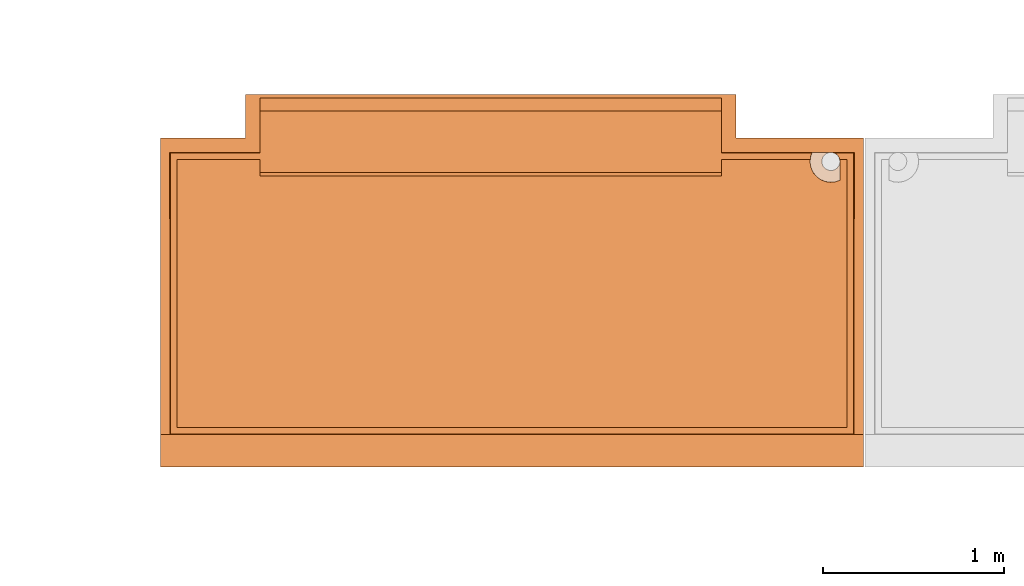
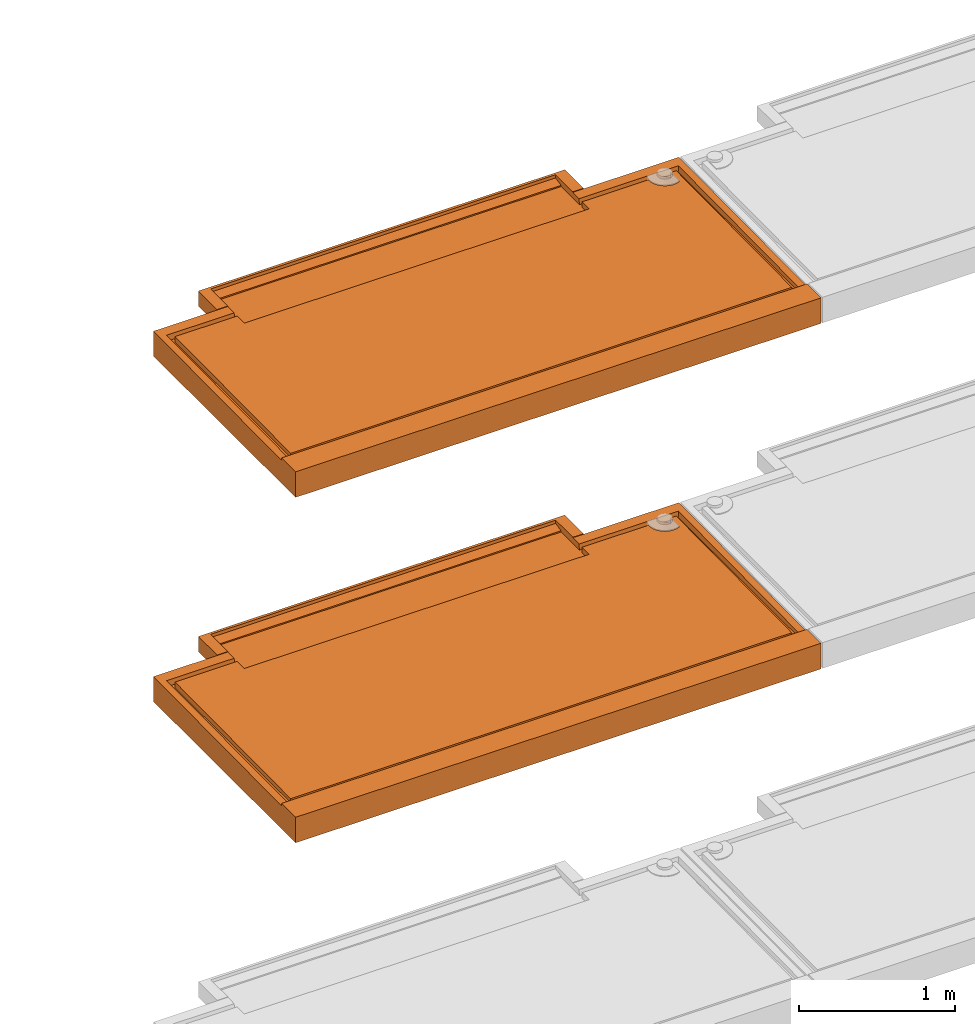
# One storey, part 10 of 31: 2 proxies, 2 elements without a shape of their own.
"""IFC2X3 building model written with IfcOpenShell, lengths in centimetres."""

from ifc_helpers import new_model, entity, si_unit, converted_unit, derived_unit, direction, frame, origin, place, context, subcontext, project, spatial, faceted_brep, source, transform, mapped, material, type_object, type_shapes, element, aggregate, save


model = new_model("IFC2X3")

# Units and contexts
model_context = context("Model", 3, precision=0.001, world=origin(), true_north=direction((6.12303176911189e-17, 1.0)))
body_context = subcontext(model_context, "Body", "Model", "MODEL_VIEW")
ifc_project = project(units=[si_unit("LENGTHUNIT", "METRE", prefix="CENTI"), si_unit("AREAUNIT", "SQUARE_METRE"), si_unit("VOLUMEUNIT", "CUBIC_METRE"), converted_unit("PLANEANGLEUNIT", "DEGREE", entity("IfcRatioMeasure", 0.0174532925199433), si_unit("PLANEANGLEUNIT", "RADIAN"), dimensions=[0, 0, 0, 0, 0, 0, 0]), si_unit("MASSUNIT", "GRAM", prefix="KILO"), derived_unit("MASSDENSITYUNIT", [(si_unit("MASSUNIT", "GRAM", prefix="KILO"), 1), (si_unit("LENGTHUNIT", "METRE"), -3)]), si_unit("TIMEUNIT", "SECOND"), si_unit("FREQUENCYUNIT", "HERTZ"), si_unit("THERMODYNAMICTEMPERATUREUNIT", "DEGREE_CELSIUS"), derived_unit("THERMALTRANSMITTANCEUNIT", [(si_unit("MASSUNIT", "GRAM", prefix="KILO"), 1), (si_unit("THERMODYNAMICTEMPERATUREUNIT", "KELVIN"), -1), (si_unit("TIMEUNIT", "SECOND"), -3)]), derived_unit("VOLUMETRICFLOWRATEUNIT", [(si_unit("LENGTHUNIT", "METRE"), 3), (si_unit("TIMEUNIT", "SECOND"), -1)]), si_unit("ELECTRICCURRENTUNIT", "AMPERE"), si_unit("ELECTRICVOLTAGEUNIT", "VOLT"), si_unit("POWERUNIT", "WATT"), si_unit("FORCEUNIT", "NEWTON"), si_unit("ILLUMINANCEUNIT", "LUX"), si_unit("LUMINOUSFLUXUNIT", "LUMEN"), si_unit("LUMINOUSINTENSITYUNIT", "CANDELA"), derived_unit("USERDEFINED", [(si_unit("MASSUNIT", "GRAM", prefix="KILO"), -1), (si_unit("LENGTHUNIT", "METRE"), -2), (si_unit("TIMEUNIT", "SECOND"), 3), (si_unit("LUMINOUSFLUXUNIT", "LUMEN"), 1)]), derived_unit("LINEARVELOCITYUNIT", [(si_unit("LENGTHUNIT", "METRE"), 1), (si_unit("TIMEUNIT", "SECOND"), -1)]), si_unit("PRESSUREUNIT", "PASCAL"), derived_unit("USERDEFINED", [(si_unit("LENGTHUNIT", "METRE"), -2), (si_unit("MASSUNIT", "GRAM", prefix="KILO"), 1), (si_unit("TIMEUNIT", "SECOND"), -2)])], contexts=[model_context])

# Site, building, storey
site_placement = place(None, origin())
site = spatial("IfcSite", under=ifc_project, at=site_placement, Name="Default", CompositionType="ELEMENT")
building_placement = place(site_placement, origin())
building = spatial("IfcBuilding", under=site, at=building_placement, Name="CAGE 03", CompositionType="ELEMENT")
storey_placement = place(building_placement, frame((0.0, 0.0, -400.0)))
storey = spatial("IfcBuildingStorey", under=building, at=storey_placement, Name="±0.00", CompositionType="ELEMENT", Elevation=-400.0)

# Assembly, proxy
assembly_1_placement = place(storey_placement, origin())
assembly_1 = element("IfcElementAssembly", 1, at=assembly_1_placement, inside=storey, Name="Assemblage Modèles génériques:BALCON TYPE 03", ObjectType="Assemblage Modèles génériques:BALCON TYPE 03", AssemblyPlace="NOTDEFINED", PredefinedType="USERDEFINED")
ifc_material = material(Name="Béton, panneaux préfa 30/37")
building_element_proxy_type_1 = type_object("IfcBuildingElementProxyType", Name="balcon préfa type 03", PredefinedType="NOTDEFINED", material=ifc_material)
shared_shape_1 = source(origin(), body_context, "Body", "Brep", [
    faceted_brep([(9.0, 22.0, 15.0), (9.0, 170.0, 15.0), (55.0, 170.0, 15.0), (55.0, 163.0, 15.0), (310.0, 163.0, 15.0), (310.0, 170.0, 15.0), (359.043560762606, 170.0, 15.0), (359.350476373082, 171.817467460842, 15.0), (359.943813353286, 173.56255668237, 15.0), (310.0, 173.562556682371, 15.0), (310.0, 197.0, 15.0), (55.0, 197.0, 15.0), (55.0, 173.562556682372, 15.0), (5.43744331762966, 173.562556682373, 15.0), (5.4374433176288, 18.4374433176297, 15.0), (383.06255668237, 18.4374433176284, 15.0), (383.06255668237, 173.56255668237, 15.0), (372.545257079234, 173.56255668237, 15.0), (373.559340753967, 172.954798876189, 15.0), (374.402378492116, 172.125930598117, 15.0), (375.027236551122, 171.122293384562, 15.0), (375.398979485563, 170.0, 15.0), (379.5, 170.0, 15.0), (379.499999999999, 22.0, 15.0), (47.0, 182.0, 20.0), (55.0, 182.0, 20.0), (55.0, 204.0, 20.0), (310.0, 204.0, 20.0), (310.0, 182.0, 20.0), (318.0, 182.0, 20.0), (318.0, 198.0, 20.0), (318.0, 206.0, 20.0), (47.0, 206.0, 20.0), (47.0, 198.0, 20.0), (388.499999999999, 0.0, 20.0), (388.499999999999, 18.0, 20.0), (0.0, 18.0, 20.0), (0.0, 0.0, 20.0), (47.0, 206.0, 8.0), (318.0, 206.0, 8.0), (4.0, 180.0, 0.0), (4.0, 182.0, 0.0), (365.499999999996, 169.0, 0.0), (365.67037086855, 167.705904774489, 0.0), (4.0, 4.0, 0.0), (365.67037086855, 170.294095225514, 0.0), (366.169872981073, 171.500000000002, 0.0), (366.964466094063, 172.535533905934, 0.0), (368.0, 173.330127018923, 0.0), (384.5, 182.0, 0.0), (369.205904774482, 173.829629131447, 0.0), (370.499999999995, 174.0, 0.0), (371.794095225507, 173.829629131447, 0.0), (373.0, 173.330127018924, 0.0), (384.5, 180.0, 0.0), (374.035533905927, 172.535533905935, 0.0), (374.830127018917, 171.500000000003, 0.0), (375.329629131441, 170.294095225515, 0.0), (375.499999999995, 169.0, 0.0), (375.329629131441, 167.705904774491, 0.0), (374.830127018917, 166.500000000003, 0.0), (384.499999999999, 4.0, 0.0), (366.169872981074, 166.500000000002, 0.0), (366.964466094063, 165.464466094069, 0.0), (368.0, 164.66987298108, 0.0), (369.205904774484, 164.170370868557, 0.0), (370.499999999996, 164.0, 0.0), (374.035533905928, 165.46446609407, 0.0), (373.0, 164.669872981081, 0.0), (371.794095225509, 164.170370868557, 0.0), (0.0, 182.0, 0.0), (3.0, 182.0, 0.0), (3.0, 180.0, 0.0), (3.0, 3.0, 0.0), (385.499999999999, 3.0, 0.0), (385.5, 180.0, 0.0), (385.5, 182.0, 0.0), (388.5, 182.0, 0.0), (388.5, 180.0, 0.0), (388.499999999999, 0.0, 0.0), (0.0, 0.0, 0.0), (0.0, 180.0, 0.0), (0.0, 18.177465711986, 17.9715576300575), (5.17746571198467, 18.177465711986, 17.9715576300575), (5.04116008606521, 173.958839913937, 19.5295380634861), (55.0, 173.958839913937, 19.5295380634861), (55.0, 180.0, 19.589956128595), (55.0, 182.0, 19.6099582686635), (47.0, 182.0, 19.6099582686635), (0.0, 182.0, 19.6099582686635), (0.0, 180.0, 19.589956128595), (9.0, 22.0, 18.0097870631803), (379.499999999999, 22.0, 18.0097870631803), (379.499999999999, 170.0, 19.4899454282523), (375.398979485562, 170.0, 19.4899454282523), (375.474680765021, 169.502544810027, 19.4849703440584), (375.499999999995, 169.0, 19.479944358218), (375.499999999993, 158.643842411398, 19.3763717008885), (372.960376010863, 157.766276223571, 19.3675950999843), (370.286434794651, 157.501983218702, 19.3649518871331), (367.624152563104, 157.865391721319, 19.3685863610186), (365.11886903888, 158.836662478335, 19.3783001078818), (362.907353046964, 160.362771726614, 19.3935628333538), (361.110336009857, 162.360405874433, 19.4135413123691), (359.82592095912, 164.720509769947, 19.4371448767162), (359.124226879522, 167.31424025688, 19.4630849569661), (359.043560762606, 170.0, 19.4899454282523), (310.0, 170.0, 19.4899454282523), (310.0, 161.001802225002, 19.3999538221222), (55.0, 161.001802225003, 19.3999538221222), (55.0, 170.0, 19.4899454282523), (9.0, 170.0, 19.4899454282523), (318.0, 182.0, 19.6099582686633), (310.0, 182.0, 19.6099582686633), (310.0, 180.0, 19.589956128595), (310.0, 173.958839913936, 19.5295380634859), (360.124070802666, 173.958839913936, 19.5295380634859), (360.133936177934, 173.979429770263, 19.5297439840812), (360.143842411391, 174.0, 19.5299497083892), (370.499999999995, 174.0, 19.5299497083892), (370.820780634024, 173.989699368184, 19.5298466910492), (371.140239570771, 173.958839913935, 19.5295380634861), (383.458839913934, 173.958839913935, 19.5295380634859), (383.322534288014, 18.1774657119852, 17.9715576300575), (388.499999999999, 18.1774657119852, 17.9715576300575), (388.5, 180.0, 19.589956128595), (388.5, 182.0, 19.6099582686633), (55.0, 161.026803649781, 16.9000788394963), (310.0, 161.02680364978, 16.9000788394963), (310.0, 197.0, 15.9713250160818), (310.0, 204.0, 17.4999999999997), (310.0, 163.0, 16.9198129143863), (55.0, 163.0, 16.9198129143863), (3.0, 3.0, 1.0), (385.499999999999, 3.0, 1.0), (55.0, 204.0, 17.4999999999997), (47.0, 198.0, 8.0), (318.0, 198.0, 8.0), (318.0, 182.0, 8.0), (47.0, 182.0, 8.0), (385.5, 182.0, 1.0), (384.5, 182.0, 1.46630765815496), (4.0, 182.0, 1.46630765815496), (3.0, 182.0, 1.0), (55.0, 197.0, 15.9713250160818), (4.0, 4.0, 1.46630765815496), (384.499999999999, 4.0, 1.46630765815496), (360.032066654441, 173.76155137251, 17.2745197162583), (360.078068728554, 173.860195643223, 18.4020288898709), (360.10106976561, 173.909517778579, 18.9657834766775), (360.112570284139, 173.934178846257, 19.2476607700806), (359.987940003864, 173.66205402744, 16.137259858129), (371.50144996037, 173.898683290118, 18.8419447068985), (371.857288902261, 173.812251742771, 17.8540276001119), (372.205847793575, 173.700008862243, 16.5710856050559), (385.5, 180.0, 1.0), (384.5, 180.0, 1.46630765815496), (3.0, 180.0, 1.0), (4.0, 180.0, 1.46630765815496), (359.235578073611, 171.315771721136, 7.69999999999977), (359.011272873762, 168.490933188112, 7.69999999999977), (359.484546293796, 165.697004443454, 7.69999999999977), (360.626661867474, 163.103628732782, 7.69999999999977), (362.36827201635, 160.868272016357, 7.69999999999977), (364.603628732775, 159.12666186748, 7.69999999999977), (367.197004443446, 157.984546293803, 7.69999999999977), (369.990933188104, 157.511272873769, 7.69999999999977), (372.81577172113, 157.735578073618, 7.69999999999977), (375.499999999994, 158.643842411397, 7.69999999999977), (375.499999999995, 169.0, 7.69999999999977), (375.32962913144, 167.705904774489, 7.69999999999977), (374.830127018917, 166.500000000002, 7.69999999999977), (374.035533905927, 165.464466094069, 7.69999999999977), (373.0, 164.66987298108, 7.69999999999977), (371.794095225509, 164.170370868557, 7.69999999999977), (370.499999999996, 164.0, 7.69999999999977), (369.205904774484, 164.170370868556, 7.69999999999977), (368.0, 164.669872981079, 7.69999999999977), (366.964466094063, 165.464466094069, 7.69999999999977), (366.169872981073, 166.500000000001, 7.69999999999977), (365.67037086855, 167.705904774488, 7.69999999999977), (365.499999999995, 169.0, 7.69999999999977), (365.67037086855, 170.294095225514, 7.69999999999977), (366.169872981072, 171.500000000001, 7.69999999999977), (366.964466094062, 172.535533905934, 7.69999999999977), (368.0, 173.330127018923, 7.69999999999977), (369.205904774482, 173.829629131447, 7.69999999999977), (370.49999999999, 174.0, 7.69999999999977), (360.14384241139, 174.0, 7.69999999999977), (360.143842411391, 174.0, 19.1602679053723), (360.143842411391, 174.0, 18.7905791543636), (360.143842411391, 174.0, 18.0512016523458), (360.143842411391, 174.0, 16.5724605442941), (360.143842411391, 174.0, 15.0937194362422), (360.143842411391, 174.0, 13.6149783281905)], [[[0, 1, 2, 3, 4, 5, 6, 7, 8, 9, 10, 11, 12, 13, 14, 15, 16, 17, 18, 19, 20, 21, 22, 23]], [[24, 25, 26, 27, 28, 29, 30, 31, 32, 33]], [[34, 35, 36, 37]], [[38, 32, 31, 39]], [[40, 41, 42]], [[43, 40, 42]], [[43, 44, 40]], [[42, 41, 45]], [[45, 41, 46]], [[47, 46, 41]], [[48, 47, 41]], [[48, 41, 49]], [[49, 50, 48]], [[51, 50, 49]], [[52, 51, 49]], [[53, 52, 49]], [[54, 53, 49]], [[54, 55, 53]], [[56, 55, 54]], [[54, 57, 56]], [[58, 57, 54]], [[59, 58, 54]], [[54, 60, 59]], [[61, 60, 54]], [[61, 44, 62]], [[61, 62, 63]], [[61, 63, 64]], [[61, 64, 65]], [[61, 65, 66]], [[67, 60, 61]], [[67, 61, 68]], [[69, 68, 61]], [[61, 66, 69]], [[62, 44, 43]], [[70, 71, 72, 73, 74, 75, 76, 77, 78, 79, 80, 81]], [[37, 80, 79, 34]], [[82, 83, 84, 85, 86, 87, 88, 89, 90]], [[91, 92, 93, 94, 95, 96, 97, 98, 99, 100, 101, 102, 103, 104, 105, 106, 107, 108, 109, 110, 111]], [[112, 113, 114, 115, 116, 117, 118, 119, 120, 121, 122, 123, 124, 125, 126]], [[127, 109, 108, 128]], [[78, 77, 126, 125, 124, 35, 34, 79]], [[80, 37, 36, 82, 90, 89, 70, 81]], [[129, 10, 9, 115, 114, 113, 28, 27, 130]], [[107, 5, 4, 131, 128, 108]], [[92, 23, 22, 93]], [[123, 122, 16, 15]], [[0, 23, 92, 91]], [[132, 127, 128, 131]], [[3, 132, 131, 4]], [[123, 15, 14, 83, 82, 36, 35, 124]], [[133, 134, 74, 73]], [[26, 135, 130, 27]], [[136, 38, 39, 137, 138, 139]], [[89, 88, 139, 138, 112, 126, 77, 76, 140, 141, 49, 41, 142, 143, 71, 70]], [[135, 26, 25, 87, 86, 85, 12, 11, 144]], [[110, 109, 127, 132, 3, 2]], [[106, 6, 5, 107]], [[110, 2, 1, 111]], [[22, 21, 94, 93]], [[145, 44, 61, 146]], [[144, 11, 10, 129]], [[147, 148, 149, 150, 116, 115, 9, 8, 151]], [[85, 84, 13, 12]], [[122, 121, 152, 153, 154, 17, 16]], [[133, 145, 146, 134]], [[135, 144, 129, 130]], [[29, 28, 113, 112]], [[25, 24, 88, 87]], [[76, 75, 74, 134, 155, 140]], [[156, 146, 61, 54, 49, 141]], [[155, 134, 146, 156, 141, 140]], [[73, 72, 71, 143, 157, 133]], [[158, 142, 41, 40, 44, 145]], [[145, 133, 157, 143, 142, 158]], [[1, 0, 91, 111]], [[13, 84, 83, 14]], [[30, 29, 112, 138, 137, 39, 31]], [[33, 32, 38, 136, 139, 88, 24]], [[159, 160, 161, 162, 163, 164, 165, 166, 167, 168, 169, 170, 171, 172, 173, 174, 175, 176, 177, 178, 179, 180, 181, 182, 183, 184, 185, 186, 187, 188]], [[119, 118, 189, 190, 191, 192, 193, 194, 188, 187]], [[194, 8, 7]], [[159, 188, 7]], [[150, 189, 117]], [[151, 192, 147]], [[105, 160, 6]], [[7, 6, 159]], [[160, 159, 6]], [[105, 161, 160]], [[117, 116, 150]], [[189, 149, 190]], [[148, 191, 190]], [[6, 106, 105]], [[104, 161, 105]], [[149, 148, 190]], [[150, 149, 189]], [[188, 194, 7]], [[104, 162, 161]], [[163, 162, 103]], [[163, 102, 164]], [[99, 167, 166]], [[166, 165, 100]], [[165, 164, 101]], [[168, 167, 98]], [[148, 147, 191]], [[163, 103, 102]], [[164, 102, 101]], [[8, 193, 151]], [[8, 194, 193]], [[167, 99, 98]], [[118, 117, 189]], [[192, 191, 147]], [[97, 168, 98]], [[166, 100, 99]], [[100, 165, 101]], [[192, 151, 193]], [[104, 103, 162]], [[169, 168, 97, 96]], [[48, 50, 186, 185]], [[48, 185, 184, 47]], [[45, 46, 183, 182]], [[184, 183, 46, 47]], [[42, 45, 182, 181]], [[51, 187, 186, 50]], [[62, 43, 180, 179]], [[62, 179, 178, 63]], [[65, 64, 177, 176]], [[178, 177, 64, 63]], [[66, 65, 176, 175]], [[181, 180, 43, 42]], [[69, 174, 173, 68]], [[66, 175, 174, 69]], [[171, 170, 59, 60]], [[60, 67, 172, 171]], [[67, 68, 173, 172]], [[58, 59, 170, 169]], [[96, 95, 169]], [[21, 169, 95]], [[94, 21, 95]], [[57, 169, 21]], [[57, 58, 169]], [[20, 56, 57]], [[56, 20, 19]], [[19, 55, 56]], [[187, 51, 52]], [[53, 55, 18]], [[53, 17, 52]], [[19, 18, 55]], [[52, 152, 187]], [[53, 18, 17]], [[17, 154, 52]], [[152, 52, 153]], [[152, 121, 187]], [[153, 52, 154]], [[121, 120, 187]], [[187, 120, 119]], [[57, 21, 20]]]),
])
type_shapes(building_element_proxy_type_1, [shared_shape_1])
proxy_1_placement = place(assembly_1_placement, frame((6692.36582014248, 3796.6606660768, 1530.0)))
proxy_1 = element("IfcBuildingElementProxy", 2, at=proxy_1_placement, type_object=building_element_proxy_type_1, material=ifc_material, Name="BY_STR_Balcon_préfa_03:balcon préfa type 03", ObjectType="balcon préfa type 03", context=body_context, shape_type="MappedRepresentation", body=[
    mapped(shared_shape_1, transform((0.0, 0.0, 0.0), scale=1.0)),
])
aggregate(assembly_1, [proxy_1])

assembly_2_placement = place(storey_placement, origin())
assembly_2 = element("IfcElementAssembly", 3, at=assembly_2_placement, inside=storey, Name="Assemblage Modèles génériques:BALCON TYPE 03", ObjectType="Assemblage Modèles génériques:BALCON TYPE 03", AssemblyPlace="NOTDEFINED", PredefinedType="USERDEFINED")
building_element_proxy_type_2 = type_object("IfcBuildingElementProxyType", Name="balcon préfa type 03", PredefinedType="NOTDEFINED", material=ifc_material)
shared_shape_2 = source(origin(), body_context, "Body", "Brep", [
    faceted_brep([(9.0, 22.0, 15.0), (9.0, 170.0, 15.0), (55.0, 170.0, 15.0), (55.0, 163.0, 15.0), (310.0, 163.0, 15.0), (310.0, 170.0, 15.0), (359.043560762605, 170.0, 15.0), (359.35047637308, 171.817467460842, 15.0), (359.943813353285, 173.56255668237, 15.0), (310.0, 173.562556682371, 15.0), (310.0, 197.0, 15.0), (55.0, 197.0, 15.0), (55.0, 173.562556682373, 15.0), (5.43744331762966, 173.562556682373, 15.0), (5.4374433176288, 18.4374433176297, 15.0), (383.06255668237, 18.4374433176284, 15.0), (383.06255668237, 173.56255668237, 15.0), (372.545257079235, 173.56255668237, 15.0), (373.559340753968, 172.954798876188, 15.0), (374.402378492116, 172.125930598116, 15.0), (375.027236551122, 171.122293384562, 15.0), (375.398979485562, 170.0, 15.0), (379.5, 170.0, 15.0), (379.499999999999, 22.0, 15.0), (47.0, 182.0, 20.0), (55.0, 182.0, 20.0), (55.0, 204.0, 20.0), (310.0, 204.0, 20.0), (310.0, 182.0, 20.0), (318.0, 182.0, 20.0), (318.0, 198.0, 20.0), (318.0, 206.0, 20.0), (47.0, 206.0, 20.0), (47.0, 198.0, 20.0), (388.499999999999, 0.0, 20.0), (388.499999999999, 18.0, 20.0), (0.0, 18.0, 20.0), (0.0, 0.0, 20.0), (47.0, 206.0, 8.0), (318.0, 206.0, 8.0), (4.0, 180.0, 0.0), (4.0, 182.0, 0.0), (365.499999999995, 169.0, 0.0), (365.67037086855, 167.70590477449, 0.0), (4.0, 4.0, 0.0), (365.67037086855, 170.294095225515, 0.0), (366.169872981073, 171.500000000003, 0.0), (366.964466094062, 172.535533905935, 0.0), (368.0, 173.330127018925, 0.0), (384.5, 182.0, 0.0), (369.205904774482, 173.829629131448, 0.0), (370.499999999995, 174.0, 0.0), (371.794095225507, 173.829629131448, 0.0), (373.0, 173.330127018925, 0.0), (384.5, 180.0, 0.0), (374.035533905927, 172.535533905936, 0.0), (374.830127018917, 171.500000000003, 0.0), (375.32962913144, 170.294095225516, 0.0), (375.499999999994, 169.0, 0.0), (375.32962913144, 167.705904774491, 0.0), (374.830127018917, 166.500000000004, 0.0), (384.499999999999, 4.0, 0.0), (366.169872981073, 166.500000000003, 0.0), (366.964466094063, 165.46446609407, 0.0), (368.0, 164.669872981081, 0.0), (369.205904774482, 164.170370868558, 0.0), (370.499999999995, 164.0, 0.0), (374.035533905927, 165.464466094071, 0.0), (373.0, 164.669872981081, 0.0), (371.794095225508, 164.170370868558, 0.0), (0.0, 182.0, 0.0), (3.0, 182.0, 0.0), (3.0, 180.0, 0.0), (3.0, 3.0, 0.0), (385.499999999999, 3.0, 0.0), (385.5, 180.0, 0.0), (385.5, 182.0, 0.0), (388.5, 182.0, 0.0), (388.5, 180.0, 0.0), (388.499999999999, 0.0, 0.0), (0.0, 0.0, 0.0), (0.0, 180.0, 0.0), (0.0, 18.177465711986, 17.9715576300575), (5.17746571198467, 18.177465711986, 17.9715576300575), (5.04116008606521, 173.958839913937, 19.5295380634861), (55.0, 173.958839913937, 19.5295380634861), (55.0, 180.0, 19.589956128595), (55.0, 182.0, 19.6099582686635), (47.0, 182.0, 19.6099582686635), (0.0, 182.0, 19.6099582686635), (0.0, 180.0, 19.589956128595), (9.0, 22.0, 18.0097870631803), (379.499999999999, 22.0, 18.0097870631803), (379.499999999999, 170.0, 19.4899454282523), (375.398979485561, 170.0, 19.4899454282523), (375.47468076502, 169.502544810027, 19.4849703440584), (375.499999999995, 169.0, 19.479944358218), (375.499999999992, 158.643842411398, 19.3763717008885), (372.960376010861, 157.766276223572, 19.3675950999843), (370.286434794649, 157.501983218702, 19.3649518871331), (367.624152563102, 157.86539172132, 19.3685863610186), (365.118869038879, 158.836662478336, 19.3783001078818), (362.907353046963, 160.362771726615, 19.3935628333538), (361.110336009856, 162.360405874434, 19.4135413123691), (359.825920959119, 164.720509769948, 19.4371448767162), (359.124226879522, 167.31424025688, 19.4630849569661), (359.043560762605, 170.0, 19.4899454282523), (310.0, 170.0, 19.4899454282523), (310.0, 161.001802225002, 19.3999538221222), (55.0, 161.001802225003, 19.3999538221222), (55.0, 170.0, 19.4899454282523), (9.0, 170.0, 19.4899454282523), (318.0, 182.0, 19.6099582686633), (310.0, 182.0, 19.6099582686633), (310.0, 180.0, 19.589956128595), (310.0, 173.958839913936, 19.5295380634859), (360.124070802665, 173.958839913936, 19.5295380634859), (360.133936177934, 173.979429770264, 19.5297439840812), (360.143842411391, 174.0, 19.5299497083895), (370.499999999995, 174.0, 19.5299497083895), (370.820780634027, 173.989699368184, 19.5298466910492), (371.140239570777, 173.958839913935, 19.5295380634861), (383.458839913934, 173.958839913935, 19.5295380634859), (383.322534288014, 18.1774657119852, 17.9715576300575), (388.499999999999, 18.1774657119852, 17.9715576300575), (388.5, 180.0, 19.589956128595), (388.5, 182.0, 19.6099582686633), (55.0, 161.026803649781, 16.9000788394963), (310.0, 161.02680364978, 16.9000788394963), (310.0, 197.0, 15.9713250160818), (310.0, 204.0, 17.4999999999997), (310.0, 163.0, 16.9198129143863), (55.0, 163.0, 16.9198129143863), (3.0, 3.0, 1.0), (385.499999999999, 3.0, 1.0), (55.0, 204.0, 17.4999999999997), (47.0, 198.0, 8.0), (318.0, 198.0, 8.0), (318.0, 182.0, 8.0), (47.0, 182.0, 8.0), (385.5, 182.0, 1.0), (384.5, 182.0, 1.46630765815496), (4.0, 182.0, 1.46630765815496), (3.0, 182.0, 1.0), (55.0, 197.0, 15.9713250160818), (4.0, 4.0, 1.46630765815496), (384.499999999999, 4.0, 1.46630765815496), (360.03206665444, 173.76155137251, 17.2745197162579), (360.078068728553, 173.860195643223, 18.4020288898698), (360.10106976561, 173.909517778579, 18.9657834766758), (360.112570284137, 173.934178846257, 19.2476607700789), (359.987940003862, 173.66205402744, 16.1372598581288), (371.501449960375, 173.898683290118, 18.8419447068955), (371.857288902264, 173.812251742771, 17.854027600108), (372.205847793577, 173.700008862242, 16.5710856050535), (385.5, 180.0, 1.0), (384.5, 180.0, 1.46630765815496), (3.0, 180.0, 1.0), (4.0, 180.0, 1.46630765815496), (359.23557807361, 171.315771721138, 7.69999999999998), (359.011272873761, 168.490933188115, 7.69999999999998), (359.484546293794, 165.697004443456, 7.69999999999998), (360.626661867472, 163.103628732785, 7.69999999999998), (362.368272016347, 160.868272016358, 7.69999999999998), (364.603628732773, 159.126661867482, 7.69999999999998), (367.197004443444, 157.984546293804, 7.69999999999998), (369.990933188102, 157.511272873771, 7.69999999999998), (372.815771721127, 157.735578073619, 7.69999999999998), (375.499999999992, 158.643842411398, 7.69999999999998), (375.499999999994, 169.0, 7.69999999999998), (375.329629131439, 167.70590477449, 7.69999999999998), (374.830127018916, 166.500000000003, 7.69999999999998), (374.035533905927, 165.46446609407, 7.69999999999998), (373.0, 164.669872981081, 7.69999999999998), (371.794095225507, 164.170370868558, 7.69999999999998), (370.499999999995, 164.0, 7.69999999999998), (369.205904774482, 164.170370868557, 7.69999999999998), (368.0, 164.66987298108, 7.69999999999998), (366.964466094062, 165.464466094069, 7.69999999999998), (366.169872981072, 166.500000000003, 7.69999999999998), (365.670370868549, 167.70590477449, 7.69999999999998), (365.499999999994, 169.0, 7.69999999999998), (365.670370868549, 170.294095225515, 7.69999999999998), (366.169872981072, 171.500000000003, 7.69999999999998), (366.964466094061, 172.535533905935, 7.69999999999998), (368.0, 173.330127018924, 7.69999999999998), (369.205904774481, 173.829629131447, 7.69999999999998), (370.49999999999, 174.0, 7.69999999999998), (360.14384241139, 174.0, 7.69999999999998), (360.143842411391, 174.0, 19.1602570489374), (360.143842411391, 174.0, 18.7905713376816), (360.143842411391, 174.0, 18.0511999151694), (360.143842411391, 174.0, 16.5724570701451), (360.14384241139, 174.0, 15.0937142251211), (360.14384241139, 174.0, 13.6149713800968)], [[[0, 1, 2, 3, 4, 5, 6, 7, 8, 9, 10, 11, 12, 13, 14, 15, 16, 17, 18, 19, 20, 21, 22, 23]], [[24, 25, 26, 27, 28, 29, 30, 31, 32, 33]], [[34, 35, 36, 37]], [[38, 32, 31, 39]], [[40, 41, 42]], [[43, 40, 42]], [[43, 44, 40]], [[42, 41, 45]], [[45, 41, 46]], [[47, 46, 41]], [[48, 47, 41]], [[48, 41, 49]], [[49, 50, 48]], [[51, 50, 49]], [[52, 51, 49]], [[53, 52, 49]], [[54, 53, 49]], [[54, 55, 53]], [[56, 55, 54]], [[54, 57, 56]], [[58, 57, 54]], [[59, 58, 54]], [[54, 60, 59]], [[61, 60, 54]], [[61, 44, 62]], [[61, 62, 63]], [[61, 63, 64]], [[61, 64, 65]], [[61, 65, 66]], [[67, 60, 61]], [[67, 61, 68]], [[69, 68, 61]], [[61, 66, 69]], [[62, 44, 43]], [[70, 71, 72, 73, 74, 75, 76, 77, 78, 79, 80, 81]], [[37, 80, 79, 34]], [[82, 83, 84, 85, 86, 87, 88, 89, 90]], [[91, 92, 93, 94, 95, 96, 97, 98, 99, 100, 101, 102, 103, 104, 105, 106, 107, 108, 109, 110, 111]], [[112, 113, 114, 115, 116, 117, 118, 119, 120, 121, 122, 123, 124, 125, 126]], [[127, 109, 108, 128]], [[78, 77, 126, 125, 124, 35, 34, 79]], [[80, 37, 36, 82, 90, 89, 70, 81]], [[129, 10, 9, 115, 114, 113, 28, 27, 130]], [[107, 5, 4, 131, 128, 108]], [[92, 23, 22, 93]], [[123, 122, 16, 15]], [[0, 23, 92, 91]], [[132, 127, 128, 131]], [[3, 132, 131, 4]], [[123, 15, 14, 83, 82, 36, 35, 124]], [[133, 134, 74, 73]], [[26, 135, 130, 27]], [[136, 38, 39, 137, 138, 139]], [[89, 88, 139, 138, 112, 126, 77, 76, 140, 141, 49, 41, 142, 143, 71, 70]], [[135, 26, 25, 87, 86, 85, 12, 11, 144]], [[110, 109, 127, 132, 3, 2]], [[106, 6, 5, 107]], [[110, 2, 1, 111]], [[22, 21, 94, 93]], [[145, 44, 61, 146]], [[144, 11, 10, 129]], [[147, 148, 149, 150, 116, 115, 9, 8, 151]], [[85, 84, 13, 12]], [[122, 121, 152, 153, 154, 17, 16]], [[133, 145, 146, 134]], [[135, 144, 129, 130]], [[29, 28, 113, 112]], [[25, 24, 88, 87]], [[76, 75, 74, 134, 155, 140]], [[156, 146, 61, 54, 49, 141]], [[155, 134, 146, 156, 141, 140]], [[73, 72, 71, 143, 157, 133]], [[158, 142, 41, 40, 44, 145]], [[145, 133, 157, 143, 142, 158]], [[1, 0, 91, 111]], [[13, 84, 83, 14]], [[30, 29, 112, 138, 137, 39, 31]], [[33, 32, 38, 136, 139, 88, 24]], [[159, 160, 161, 162, 163, 164, 165, 166, 167, 168, 169, 170, 171, 172, 173, 174, 175, 176, 177, 178, 179, 180, 181, 182, 183, 184, 185, 186, 187, 188]], [[119, 118, 189, 190, 191, 192, 193, 194, 188, 187]], [[194, 8, 7]], [[159, 188, 7]], [[150, 189, 117]], [[151, 192, 147]], [[105, 160, 6]], [[7, 6, 159]], [[160, 159, 6]], [[105, 161, 160]], [[117, 116, 150]], [[189, 149, 190]], [[148, 191, 190]], [[6, 106, 105]], [[104, 161, 105]], [[149, 148, 190]], [[150, 149, 189]], [[188, 194, 7]], [[104, 162, 161]], [[163, 162, 103]], [[163, 102, 164]], [[99, 167, 166]], [[166, 165, 100]], [[165, 164, 101]], [[168, 167, 98]], [[148, 147, 191]], [[163, 103, 102]], [[164, 102, 101]], [[8, 193, 151]], [[8, 194, 193]], [[167, 99, 98]], [[118, 117, 189]], [[192, 191, 147]], [[97, 168, 98]], [[166, 100, 99]], [[100, 165, 101]], [[192, 151, 193]], [[104, 103, 162]], [[169, 168, 97, 96]], [[48, 50, 186, 185]], [[48, 185, 184, 47]], [[45, 46, 183, 182]], [[184, 183, 46, 47]], [[42, 45, 182, 181]], [[51, 187, 186, 50]], [[62, 43, 180, 179]], [[62, 179, 178, 63]], [[65, 64, 177, 176]], [[178, 177, 64, 63]], [[66, 65, 176, 175]], [[181, 180, 43, 42]], [[69, 174, 173, 68]], [[66, 175, 174, 69]], [[171, 170, 59, 60]], [[60, 67, 172, 171]], [[67, 68, 173, 172]], [[58, 59, 170, 169]], [[96, 95, 169]], [[21, 169, 95]], [[94, 21, 95]], [[57, 169, 21]], [[57, 58, 169]], [[20, 56, 57]], [[56, 20, 19]], [[19, 55, 56]], [[187, 51, 52]], [[53, 55, 18]], [[53, 17, 52]], [[19, 18, 55]], [[52, 152, 187]], [[53, 18, 17]], [[17, 154, 52]], [[152, 52, 153]], [[152, 121, 187]], [[153, 52, 154]], [[121, 120, 187]], [[187, 120, 119]], [[57, 21, 20]]]),
])
type_shapes(building_element_proxy_type_2, [shared_shape_2])
proxy_2_placement = place(assembly_2_placement, frame((6692.36582014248, 3796.6606660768, 1800.0)))
proxy_2 = element("IfcBuildingElementProxy", 4, at=proxy_2_placement, type_object=building_element_proxy_type_2, material=ifc_material, Name="BY_STR_Balcon_préfa_03:balcon préfa type 03", ObjectType="balcon préfa type 03", context=body_context, shape_type="MappedRepresentation", body=[
    mapped(shared_shape_2, transform((0.0, 0.0, 0.0), scale=1.0)),
])
aggregate(assembly_2, [proxy_2])

save(model, "model.ifc")
